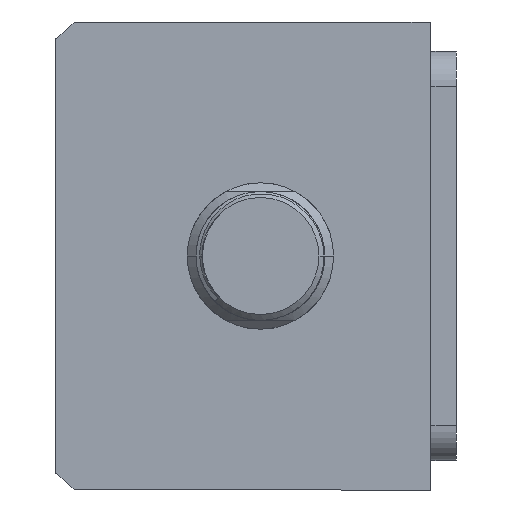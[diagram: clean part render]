
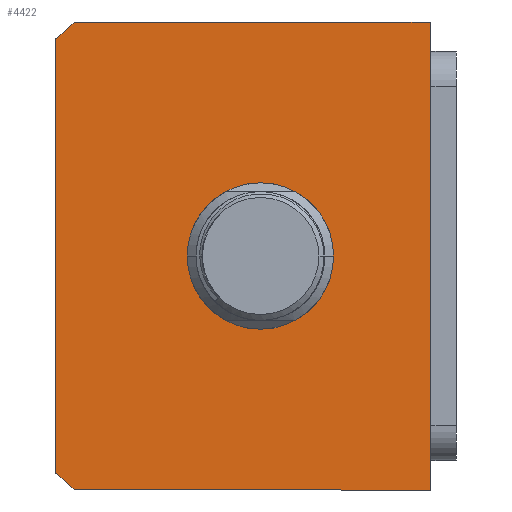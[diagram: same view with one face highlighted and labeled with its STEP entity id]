
A CAD part, front view. The second image highlights one B-rep face of the part: STEP entity #4422.
In plain terms, the highlighted planar face has unit normal (0, -1, 0) as drawn and (0, 0, -1) by its records, which use the part's own axes.
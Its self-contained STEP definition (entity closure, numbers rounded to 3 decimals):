
#351 = CARTESIAN_POINT ( 'NONE',  ( -40., 32., 0. ) ) ;
#578 = CARTESIAN_POINT ( 'NONE',  ( 37.094, -32., 0. ) ) ;
#674 = VECTOR ( 'NONE', #955, 1000. ) ;
#851 = DIRECTION ( 'NONE',  ( 0., 0., 1. ) ) ;
#955 = DIRECTION ( 'NONE',  ( 0., -1., 0. ) ) ;
#1176 = CARTESIAN_POINT ( 'NONE',  ( 0., 3., 0. ) ) ;
#1310 = EDGE_CURVE ( 'NONE', #10102, #16592, #8050, .T. ) ;
#1340 = CARTESIAN_POINT ( 'NONE',  ( 12.5, 3., 0. ) ) ;
#1530 = EDGE_LOOP ( 'NONE', ( #8487, #13847, #16042, #6843, #15839, #8512 ) ) ;
#1640 = CARTESIAN_POINT ( 'NONE',  ( -12.5, 3., 0. ) ) ;
#1898 = DIRECTION ( 'NONE',  ( 0., 0., 1. ) ) ;
#2189 = CARTESIAN_POINT ( 'NONE',  ( -40., 32., 0. ) ) ;
#2238 = DIRECTION ( 'NONE',  ( 0., 0., 1. ) ) ;
#2300 = FACE_OUTER_BOUND ( 'NONE', #1530, .T. ) ;
#2409 = ORIENTED_EDGE ( 'NONE', *, *, #1310, .T. ) ;
#3026 = AXIS2_PLACEMENT_3D ( 'NONE', #9060, #851, #10434 ) ;
#3032 = VERTEX_POINT ( 'NONE', #3642 ) ;
#3100 = DIRECTION ( 'NONE',  ( -1., 0., 0. ) ) ;
#3642 = CARTESIAN_POINT ( 'NONE',  ( 40., -28.639, 0. ) ) ;
#4106 = VERTEX_POINT ( 'NONE', #8040 ) ;
#4422 = ADVANCED_FACE ( 'NONE', ( #5310, #2300 ), #10092, .F. ) ;
#4819 = DIRECTION ( 'NONE',  ( 1., 0., 0. ) ) ;
#5243 = DIRECTION ( 'NONE',  ( 0., 1., 0. ) ) ;
#5310 = FACE_BOUND ( 'NONE', #13266, .T. ) ;
#5712 = DIRECTION ( 'NONE',  ( 0., 0., 1. ) ) ;
#5758 = EDGE_CURVE ( 'NONE', #8386, #16931, #6544, .T. ) ;
#5980 = EDGE_CURVE ( 'NONE', #11140, #3032, #8061, .T. ) ;
#6111 = CARTESIAN_POINT ( 'NONE',  ( -40., -32., 0. ) ) ;
#6441 = VECTOR ( 'NONE', #5243, 1000. ) ;
#6474 = CIRCLE ( 'NONE', #6853, 51. ) ;
#6544 = LINE ( 'NONE', #351, #9816 ) ;
#6842 = VERTEX_POINT ( 'NONE', #15603 ) ;
#6843 = ORIENTED_EDGE ( 'NONE', *, *, #10606, .F. ) ;
#6853 = AXIS2_PLACEMENT_3D ( 'NONE', #13930, #5712, #15275 ) ;
#7980 = DIRECTION ( 'NONE',  ( 0., 0., 1. ) ) ;
#8040 = CARTESIAN_POINT ( 'NONE',  ( -37.094, -32., 0. ) ) ;
#8050 = CIRCLE ( 'NONE', #9376, 12.5 ) ;
#8061 = CIRCLE ( 'NONE', #11316, 51. ) ;
#8386 = VERTEX_POINT ( 'NONE', #10880 ) ;
#8487 = ORIENTED_EDGE ( 'NONE', *, *, #17446, .F. ) ;
#8512 = ORIENTED_EDGE ( 'NONE', *, *, #12832, .F. ) ;
#9060 = CARTESIAN_POINT ( 'NONE',  ( 0., 3., 0. ) ) ;
#9150 = CARTESIAN_POINT ( 'NONE',  ( -40., 32., 0. ) ) ;
#9376 = AXIS2_PLACEMENT_3D ( 'NONE', #1176, #7980, #13624 ) ;
#9816 = VECTOR ( 'NONE', #3100, 1000. ) ;
#10039 = CARTESIAN_POINT ( 'NONE',  ( 0., 0., 0. ) ) ;
#10092 = PLANE ( 'NONE',  #12414 ) ;
#10102 = VERTEX_POINT ( 'NONE', #1340 ) ;
#10133 = LINE ( 'NONE', #10710, #6441 ) ;
#10434 = DIRECTION ( 'NONE',  ( 1., 0., 0. ) ) ;
#10451 = CARTESIAN_POINT ( 'NONE',  ( 0., 3., 0. ) ) ;
#10606 = EDGE_CURVE ( 'NONE', #3032, #8386, #10133, .T. ) ;
#10710 = CARTESIAN_POINT ( 'NONE',  ( 40., 32., 0. ) ) ;
#10880 = CARTESIAN_POINT ( 'NONE',  ( 40., 32., 0. ) ) ;
#11140 = VERTEX_POINT ( 'NONE', #578 ) ;
#11316 = AXIS2_PLACEMENT_3D ( 'NONE', #10451, #2238, #11831 ) ;
#11493 = DIRECTION ( 'NONE',  ( 1., 0., 0. ) ) ;
#11556 = ORIENTED_EDGE ( 'NONE', *, *, #13585, .T. ) ;
#11595 = VECTOR ( 'NONE', #4819, 1000. ) ;
#11831 = DIRECTION ( 'NONE',  ( 1., 0., 0. ) ) ;
#12098 = EDGE_CURVE ( 'NONE', #16931, #6842, #16944, .T. ) ;
#12414 = AXIS2_PLACEMENT_3D ( 'NONE', #10039, #1898, #11493 ) ;
#12832 = EDGE_CURVE ( 'NONE', #4106, #11140, #15194, .T. ) ;
#13266 = EDGE_LOOP ( 'NONE', ( #2409, #11556 ) ) ;
#13585 = EDGE_CURVE ( 'NONE', #16592, #10102, #14985, .T. ) ;
#13624 = DIRECTION ( 'NONE',  ( 1., 0., 0. ) ) ;
#13847 = ORIENTED_EDGE ( 'NONE', *, *, #12098, .F. ) ;
#13930 = CARTESIAN_POINT ( 'NONE',  ( 0., 3., 0. ) ) ;
#14985 = CIRCLE ( 'NONE', #3026, 12.5 ) ;
#15194 = LINE ( 'NONE', #6111, #11595 ) ;
#15275 = DIRECTION ( 'NONE',  ( 1., 0., 0. ) ) ;
#15603 = CARTESIAN_POINT ( 'NONE',  ( -40., -28.639, 0. ) ) ;
#15839 = ORIENTED_EDGE ( 'NONE', *, *, #5980, .F. ) ;
#16042 = ORIENTED_EDGE ( 'NONE', *, *, #5758, .F. ) ;
#16592 = VERTEX_POINT ( 'NONE', #1640 ) ;
#16931 = VERTEX_POINT ( 'NONE', #2189 ) ;
#16944 = LINE ( 'NONE', #9150, #674 ) ;
#17446 = EDGE_CURVE ( 'NONE', #6842, #4106, #6474, .T. ) ;
